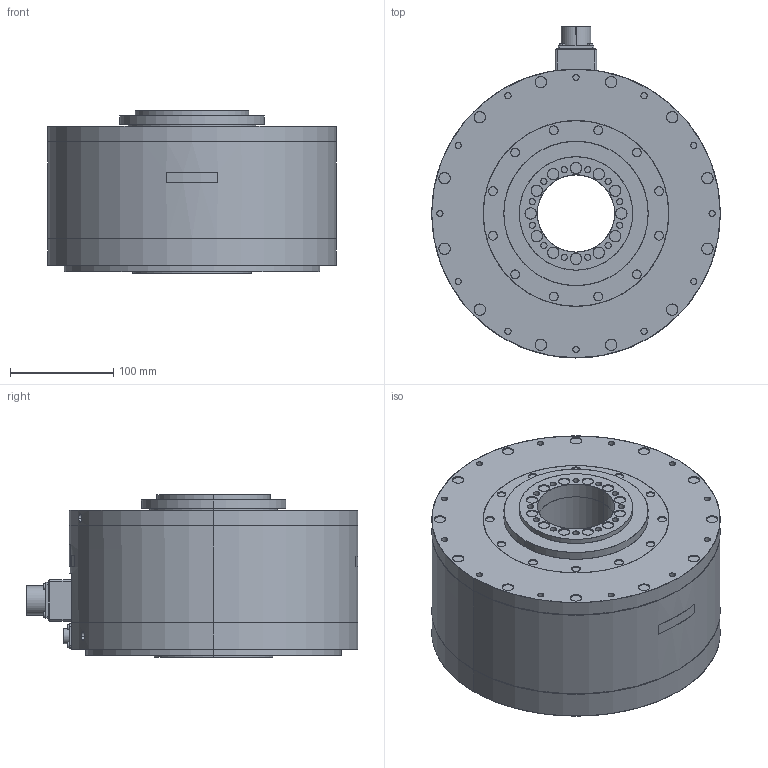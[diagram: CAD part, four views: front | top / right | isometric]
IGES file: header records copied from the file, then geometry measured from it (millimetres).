
Start section: SolidWorks IGES file using analytic representation for surfaces
Bounding box: 280 x 322.1 x 157.5 mm (x, y, z)
Surface area: 323890.4 mm2 (no closed solid volume)
Topology: 0 solids, 0 shells, 536 faces, 11928 edges, 11928 vertices
Faces by surface type: revolution 324, bspline 212
